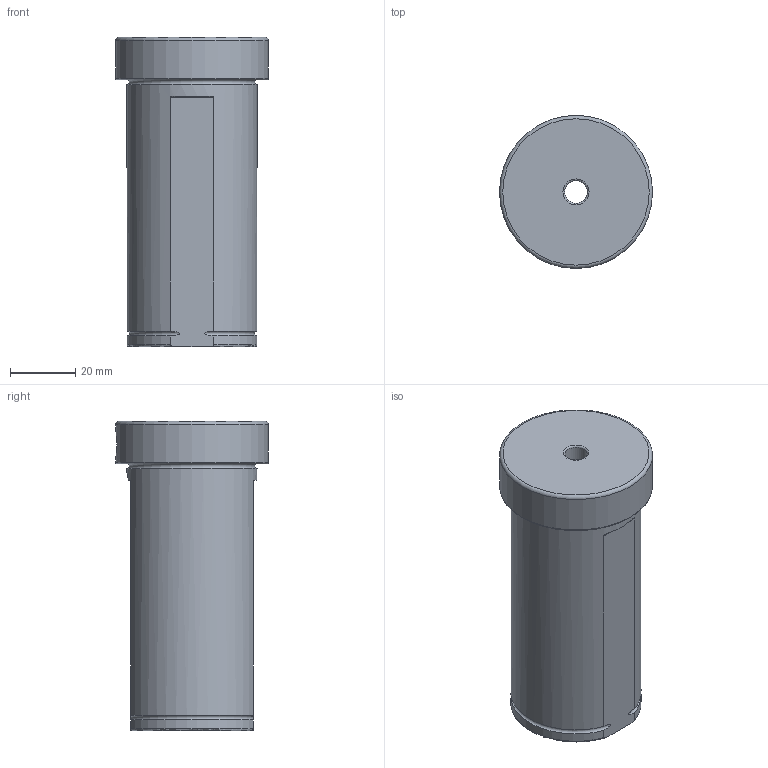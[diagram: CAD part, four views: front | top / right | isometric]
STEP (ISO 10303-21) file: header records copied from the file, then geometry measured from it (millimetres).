
FILE_DESCRIPTION(/* description */ (''),/* implementation_level */ '2;1');
FILE_NAME(/* name */ '',/* time_stamp */ '2025-08-20T14:45:14+03:00',/* author */ ('User'),/* organization */ (''),/* preprocessor_version */ 'ST-DEVELOPER v19.2',/* originating_system */ 'Autodesk Inventor 2024',/* authorisation */ '');
FILE_SCHEMA (('AUTOMOTIVE_DESIGN { 1 0 10303 214 3 1 1 }'));
Length unit declared in the file: millimetre
Products named in the file (1): Втулка переходная 
D40-d6
Bounding box: 47 x 47 x 95 mm (x, y, z)
Volume: 88677.2 mm3; surface area: 22156.7 mm2
Topology: 1 solids, 1 shells, 56 faces, 139 edges, 92 vertices
Faces by surface type: plane 28, cylinder 14, torus 10, bspline 4
Full cylindrical faces by diameter (mm): 6 x2, 7 x1, 8 x2, 25 x1, 26 x1, 40 x1, 47 x1
Entity records: 2269 total; most frequent: CARTESIAN_POINT 861, ORIENTED_EDGE 278, DIRECTION 264, EDGE_CURVE 139, AXIS2_PLACEMENT_3D 100, VERTEX_POINT 92, EDGE_LOOP 65, LINE 64
